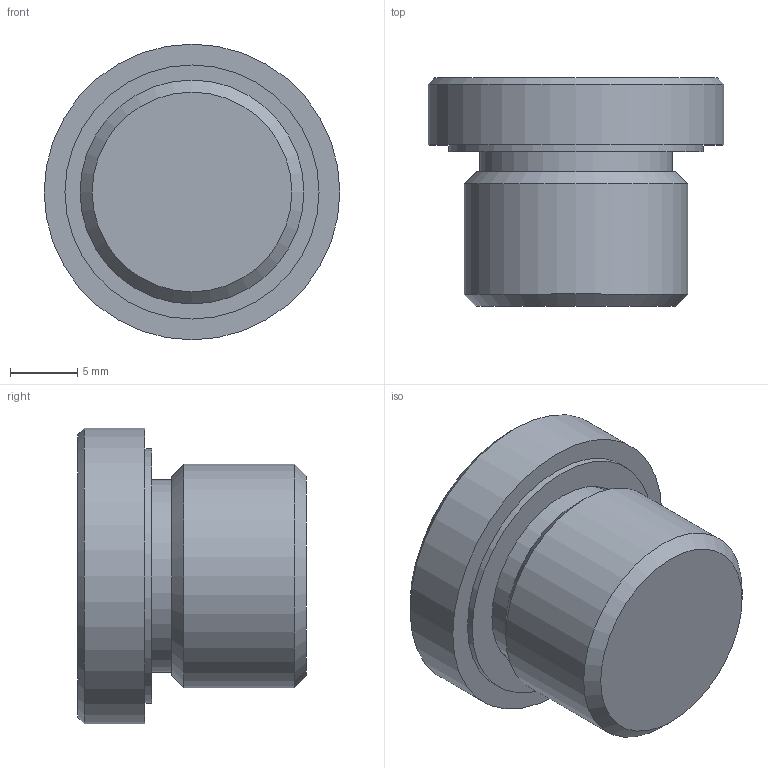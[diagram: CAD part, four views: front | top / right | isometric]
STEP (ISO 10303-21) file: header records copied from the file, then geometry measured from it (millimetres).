
FILE_DESCRIPTION( ( 'STEP AP203' ), '1' );
FILE_NAME( 'C:/Temp/Ganter_Step_05_03_2020/data/3_5/gn749/gn749_b/Threaded plug GN 749-G3_8-B.stp', '2020-03-12T13:41:39', ( 'License CC BY-ND 4.0' ), ( 'CADENAS' ), ' ', 'PARTsolutions', ' ' );
FILE_SCHEMA( ( 'CONFIG_CONTROL_DESIGN' ) );
Length unit declared in the file: millimetre
Products named in the file (1): _Threaded plug GN 749-G3/8-B
Bounding box: 22 x 17 x 22 mm (x, y, z)
Volume: 4055.7 mm3; surface area: 1984 mm2
Topology: 1 solids, 1 shells, 21 faces, 41 edges, 27 vertices
Faces by surface type: plane 13, cylinder 5, cone 3
Full cylindrical faces by diameter (mm): 14.362 x1, 14.762 x1, 16.662 x1, 18.9 x1, 22 x1
Entity records: 526 total; most frequent: DIRECTION 88, CARTESIAN_POINT 78, ORIENTED_EDGE 62, AXIS2_PLACEMENT_3D 35, EDGE_LOOP 34, EDGE_CURVE 31, FACE_OUTER_BOUND 26, VERTEX_POINT 25
